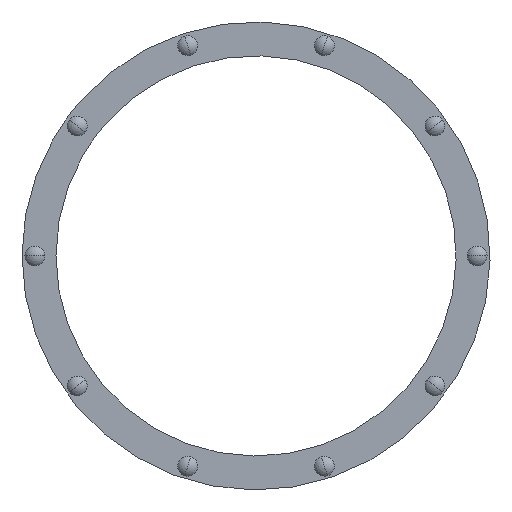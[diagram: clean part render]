
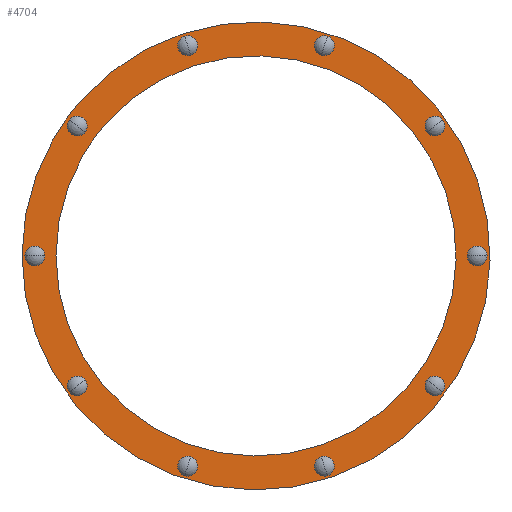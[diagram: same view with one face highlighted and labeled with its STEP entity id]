
A CAD part, front view. The second image highlights one B-rep face of the part: STEP entity #4704.
In plain terms, the highlighted planar face has unit normal (0, -1, 0).
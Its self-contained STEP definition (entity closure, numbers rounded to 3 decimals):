
#1513=CARTESIAN_POINT('',(-229.963,-92.,167.078));
#1514=DIRECTION('',(0.,1.,0.));
#1515=DIRECTION('',(-0.809,0.,0.588));
#1516=AXIS2_PLACEMENT_3D('',#1513,#1514,#1515);
#1518=CARTESIAN_POINT('',(-229.963,-92.,167.078));
#1519=DIRECTION('',(0.,1.,0.));
#1520=DIRECTION('',(0.809,0.,-0.588));
#1521=AXIS2_PLACEMENT_3D('',#1518,#1519,#1520);
#1523=CARTESIAN_POINT('',(-87.838,-92.,270.338));
#1524=DIRECTION('',(0.,1.,0.));
#1525=DIRECTION('',(-0.309,0.,0.951));
#1526=AXIS2_PLACEMENT_3D('',#1523,#1524,#1525);
#1528=CARTESIAN_POINT('',(-87.838,-92.,270.338));
#1529=DIRECTION('',(0.,1.,0.));
#1530=DIRECTION('',(0.309,0.,-0.951));
#1531=AXIS2_PLACEMENT_3D('',#1528,#1529,#1530);
#1533=CARTESIAN_POINT('',(87.838,-92.,270.338));
#1534=DIRECTION('',(0.,1.,0.));
#1535=DIRECTION('',(0.309,0.,0.951));
#1536=AXIS2_PLACEMENT_3D('',#1533,#1534,#1535);
#1538=CARTESIAN_POINT('',(87.838,-92.,270.338));
#1539=DIRECTION('',(0.,1.,0.));
#1540=DIRECTION('',(-0.309,0.,-0.951));
#1541=AXIS2_PLACEMENT_3D('',#1538,#1539,#1540);
#1543=CARTESIAN_POINT('',(229.963,-92.,167.078));
#1544=DIRECTION('',(0.,1.,0.));
#1545=DIRECTION('',(0.809,0.,0.588));
#1546=AXIS2_PLACEMENT_3D('',#1543,#1544,#1545);
#1548=CARTESIAN_POINT('',(229.963,-92.,167.078));
#1549=DIRECTION('',(0.,1.,0.));
#1550=DIRECTION('',(-0.809,0.,-0.588));
#1551=AXIS2_PLACEMENT_3D('',#1548,#1549,#1550);
#1553=CARTESIAN_POINT('',(284.25,-92.,0.));
#1554=DIRECTION('',(0.,1.,0.));
#1555=DIRECTION('',(1.,0.,0.));
#1556=AXIS2_PLACEMENT_3D('',#1553,#1554,#1555);
#1558=CARTESIAN_POINT('',(284.25,-92.,0.));
#1559=DIRECTION('',(0.,1.,0.));
#1560=DIRECTION('',(-1.,0.,0.));
#1561=AXIS2_PLACEMENT_3D('',#1558,#1559,#1560);
#1563=CARTESIAN_POINT('',(229.963,-92.,-167.078));
#1564=DIRECTION('',(0.,1.,0.));
#1565=DIRECTION('',(0.809,0.,-0.588));
#1566=AXIS2_PLACEMENT_3D('',#1563,#1564,#1565);
#1568=CARTESIAN_POINT('',(229.963,-92.,-167.078));
#1569=DIRECTION('',(0.,1.,0.));
#1570=DIRECTION('',(-0.809,0.,0.588));
#1571=AXIS2_PLACEMENT_3D('',#1568,#1569,#1570);
#1573=CARTESIAN_POINT('',(87.838,-92.,-270.338));
#1574=DIRECTION('',(0.,1.,0.));
#1575=DIRECTION('',(0.309,0.,-0.951));
#1576=AXIS2_PLACEMENT_3D('',#1573,#1574,#1575);
#1578=CARTESIAN_POINT('',(87.838,-92.,-270.338));
#1579=DIRECTION('',(0.,1.,0.));
#1580=DIRECTION('',(-0.309,0.,0.951));
#1581=AXIS2_PLACEMENT_3D('',#1578,#1579,#1580);
#1583=CARTESIAN_POINT('',(-87.838,-92.,-270.338));
#1584=DIRECTION('',(0.,1.,0.));
#1585=DIRECTION('',(-0.309,0.,-0.951));
#1586=AXIS2_PLACEMENT_3D('',#1583,#1584,#1585);
#1588=CARTESIAN_POINT('',(-87.838,-92.,-270.338));
#1589=DIRECTION('',(0.,1.,0.));
#1590=DIRECTION('',(0.309,0.,0.951));
#1591=AXIS2_PLACEMENT_3D('',#1588,#1589,#1590);
#1593=CARTESIAN_POINT('',(-229.963,-92.,-167.078));
#1594=DIRECTION('',(0.,1.,0.));
#1595=DIRECTION('',(-0.809,0.,-0.588));
#1596=AXIS2_PLACEMENT_3D('',#1593,#1594,#1595);
#1598=CARTESIAN_POINT('',(-229.963,-92.,-167.078));
#1599=DIRECTION('',(0.,1.,0.));
#1600=DIRECTION('',(0.809,0.,0.588));
#1601=AXIS2_PLACEMENT_3D('',#1598,#1599,#1600);
#1603=CARTESIAN_POINT('',(-284.25,-92.,0.));
#1604=DIRECTION('',(0.,1.,0.));
#1605=DIRECTION('',(-1.,0.,0.));
#1606=AXIS2_PLACEMENT_3D('',#1603,#1604,#1605);
#1608=CARTESIAN_POINT('',(-284.25,-92.,0.));
#1609=DIRECTION('',(0.,1.,0.));
#1610=DIRECTION('',(1.,0.,0.));
#1611=AXIS2_PLACEMENT_3D('',#1608,#1609,#1610);
#1613=CARTESIAN_POINT('',(0.,-92.,0.));
#1614=DIRECTION('',(0.,1.,0.));
#1615=DIRECTION('',(-0.743,0.,0.669));
#1616=AXIS2_PLACEMENT_3D('',#1613,#1614,#1615);
#1618=CARTESIAN_POINT('',(0.,-92.,0.));
#1619=DIRECTION('',(0.,1.,0.));
#1620=DIRECTION('',(-0.866,0.,0.5));
#1621=AXIS2_PLACEMENT_3D('',#1618,#1619,#1620);
#1631=CARTESIAN_POINT('',(0.,-92.,0.));
#1632=DIRECTION('',(0.,1.,0.));
#1633=DIRECTION('',(-0.743,0.,0.669));
#1634=AXIS2_PLACEMENT_3D('',#1631,#1632,#1633);
#1636=CARTESIAN_POINT('',(0.,-92.,0.));
#1637=DIRECTION('',(0.,1.,0.));
#1638=DIRECTION('',(-0.866,0.,0.5));
#1639=AXIS2_PLACEMENT_3D('',#1636,#1637,#1638);
#3380=CARTESIAN_POINT('',(-297.,-92.,0.));
#3381=CARTESIAN_POINT('',(-271.5,-92.,0.));
#3382=VERTEX_POINT('',#3380);
#3383=VERTEX_POINT('',#3381);
#3438=CARTESIAN_POINT('',(-240.278,-92.,-174.572));
#3439=CARTESIAN_POINT('',(-219.648,-92.,-159.584));
#3440=VERTEX_POINT('',#3438);
#3441=VERTEX_POINT('',#3439);
#3496=CARTESIAN_POINT('',(-91.778,-92.,-282.464));
#3497=CARTESIAN_POINT('',(-83.898,-92.,-258.212));
#3498=VERTEX_POINT('',#3496);
#3499=VERTEX_POINT('',#3497);
#3554=CARTESIAN_POINT('',(91.778,-92.,-282.464));
#3555=CARTESIAN_POINT('',(83.898,-92.,-258.212));
#3556=VERTEX_POINT('',#3554);
#3557=VERTEX_POINT('',#3555);
#3612=CARTESIAN_POINT('',(240.278,-92.,-174.572));
#3613=CARTESIAN_POINT('',(219.648,-92.,-159.584));
#3614=VERTEX_POINT('',#3612);
#3615=VERTEX_POINT('',#3613);
#3670=CARTESIAN_POINT('',(297.,-92.,0.));
#3671=CARTESIAN_POINT('',(271.5,-92.,0.));
#3672=VERTEX_POINT('',#3670);
#3673=VERTEX_POINT('',#3671);
#3728=CARTESIAN_POINT('',(240.278,-92.,174.572));
#3729=CARTESIAN_POINT('',(219.648,-92.,159.584));
#3730=VERTEX_POINT('',#3728);
#3731=VERTEX_POINT('',#3729);
#3786=CARTESIAN_POINT('',(91.778,-92.,282.464));
#3787=CARTESIAN_POINT('',(83.898,-92.,258.212));
#3788=VERTEX_POINT('',#3786);
#3789=VERTEX_POINT('',#3787);
#3844=CARTESIAN_POINT('',(-91.778,-92.,282.464));
#3845=CARTESIAN_POINT('',(-83.898,-92.,258.212));
#3846=VERTEX_POINT('',#3844);
#3847=VERTEX_POINT('',#3845);
#3902=CARTESIAN_POINT('',(-240.278,-92.,174.572));
#3903=CARTESIAN_POINT('',(-219.648,-92.,159.584));
#3904=VERTEX_POINT('',#3902);
#3905=VERTEX_POINT('',#3903);
#3918=CARTESIAN_POINT('',(-260.544,-92.,150.425));
#3919=VERTEX_POINT('',#3918);
#3920=CARTESIAN_POINT('',(-222.785,-92.,128.625));
#3922=VERTEX_POINT('',#3920);
#3946=CARTESIAN_POINT('',(-223.575,-92.,201.308));
#3947=VERTEX_POINT('',#3946);
#3948=CARTESIAN_POINT('',(-191.174,-92.,172.134));
#3950=VERTEX_POINT('',#3948);
#4629=CARTESIAN_POINT('',(0.,-92.,0.));
#4630=DIRECTION('',(0.,1.,0.));
#4631=DIRECTION('',(0.866,0.,0.5));
#4632=AXIS2_PLACEMENT_3D('',#4629,#4630,#4631);
#4633=PLANE('',#4632);
#4634=ORIENTED_EDGE('',*,*,#4608,.T.);
#4635=ORIENTED_EDGE('',*,*,#4624,.T.);
#4636=EDGE_LOOP('',(#4634,#4635));
#4637=FACE_OUTER_BOUND('',#4636,.F.);
#4639=ORIENTED_EDGE('',*,*,#4638,.F.);
#4641=ORIENTED_EDGE('',*,*,#4640,.F.);
#4642=EDGE_LOOP('',(#4639,#4641));
#4643=FACE_BOUND('',#4642,.F.);
#4645=ORIENTED_EDGE('',*,*,#4644,.F.);
#4647=ORIENTED_EDGE('',*,*,#4646,.F.);
#4648=EDGE_LOOP('',(#4645,#4647));
#4649=FACE_BOUND('',#4648,.F.);
#4651=ORIENTED_EDGE('',*,*,#4650,.F.);
#4653=ORIENTED_EDGE('',*,*,#4652,.F.);
#4654=EDGE_LOOP('',(#4651,#4653));
#4655=FACE_BOUND('',#4654,.F.);
#4657=ORIENTED_EDGE('',*,*,#4656,.F.);
#4659=ORIENTED_EDGE('',*,*,#4658,.F.);
#4660=EDGE_LOOP('',(#4657,#4659));
#4661=FACE_BOUND('',#4660,.F.);
#4663=ORIENTED_EDGE('',*,*,#4662,.F.);
#4665=ORIENTED_EDGE('',*,*,#4664,.F.);
#4666=EDGE_LOOP('',(#4663,#4665));
#4667=FACE_BOUND('',#4666,.F.);
#4669=ORIENTED_EDGE('',*,*,#4668,.F.);
#4671=ORIENTED_EDGE('',*,*,#4670,.F.);
#4672=EDGE_LOOP('',(#4669,#4671));
#4673=FACE_BOUND('',#4672,.F.);
#4675=ORIENTED_EDGE('',*,*,#4674,.F.);
#4677=ORIENTED_EDGE('',*,*,#4676,.F.);
#4678=EDGE_LOOP('',(#4675,#4677));
#4679=FACE_BOUND('',#4678,.F.);
#4681=ORIENTED_EDGE('',*,*,#4680,.F.);
#4683=ORIENTED_EDGE('',*,*,#4682,.F.);
#4684=EDGE_LOOP('',(#4681,#4683));
#4685=FACE_BOUND('',#4684,.F.);
#4687=ORIENTED_EDGE('',*,*,#4686,.F.);
#4689=ORIENTED_EDGE('',*,*,#4688,.F.);
#4690=EDGE_LOOP('',(#4687,#4689));
#4691=FACE_BOUND('',#4690,.F.);
#4693=ORIENTED_EDGE('',*,*,#4692,.F.);
#4695=ORIENTED_EDGE('',*,*,#4694,.F.);
#4696=EDGE_LOOP('',(#4693,#4695));
#4697=FACE_BOUND('',#4696,.F.);
#4699=ORIENTED_EDGE('',*,*,#4698,.F.);
#4701=ORIENTED_EDGE('',*,*,#4700,.F.);
#4702=EDGE_LOOP('',(#4699,#4701));
#4703=FACE_BOUND('',#4702,.F.);
#4704=ADVANCED_FACE('',(#4637,#4643,#4649,#4655,#4661,#4667,#4673,#4679,#4685,
#4691,#4697,#4703),#4633,.F.);
#1517=CIRCLE('',#1516,12.75);
#1522=CIRCLE('',#1521,12.75);
#1527=CIRCLE('',#1526,12.75);
#1532=CIRCLE('',#1531,12.75);
#1537=CIRCLE('',#1536,12.75);
#1542=CIRCLE('',#1541,12.75);
#1547=CIRCLE('',#1546,12.75);
#1552=CIRCLE('',#1551,12.75);
#1557=CIRCLE('',#1556,12.75);
#1562=CIRCLE('',#1561,12.75);
#1567=CIRCLE('',#1566,12.75);
#1572=CIRCLE('',#1571,12.75);
#1577=CIRCLE('',#1576,12.75);
#1582=CIRCLE('',#1581,12.75);
#1587=CIRCLE('',#1586,12.75);
#1592=CIRCLE('',#1591,12.75);
#1597=CIRCLE('',#1596,12.75);
#1602=CIRCLE('',#1601,12.75);
#1607=CIRCLE('',#1606,12.75);
#1612=CIRCLE('',#1611,12.75);
#1617=CIRCLE('',#1616,300.85);
#1622=CIRCLE('',#1621,300.85);
#1635=CIRCLE('',#1634,257.25);
#1640=CIRCLE('',#1639,257.25);
#4608=EDGE_CURVE('',#3947,#3919,#1617,.T.);
#4624=EDGE_CURVE('',#3919,#3947,#1622,.T.);
#4638=EDGE_CURVE('',#3904,#3905,#1517,.T.);
#4640=EDGE_CURVE('',#3905,#3904,#1522,.T.);
#4644=EDGE_CURVE('',#3846,#3847,#1527,.T.);
#4646=EDGE_CURVE('',#3847,#3846,#1532,.T.);
#4650=EDGE_CURVE('',#3788,#3789,#1537,.T.);
#4652=EDGE_CURVE('',#3789,#3788,#1542,.T.);
#4656=EDGE_CURVE('',#3730,#3731,#1547,.T.);
#4658=EDGE_CURVE('',#3731,#3730,#1552,.T.);
#4662=EDGE_CURVE('',#3672,#3673,#1557,.T.);
#4664=EDGE_CURVE('',#3673,#3672,#1562,.T.);
#4668=EDGE_CURVE('',#3614,#3615,#1567,.T.);
#4670=EDGE_CURVE('',#3615,#3614,#1572,.T.);
#4674=EDGE_CURVE('',#3556,#3557,#1577,.T.);
#4676=EDGE_CURVE('',#3557,#3556,#1582,.T.);
#4680=EDGE_CURVE('',#3498,#3499,#1587,.T.);
#4682=EDGE_CURVE('',#3499,#3498,#1592,.T.);
#4686=EDGE_CURVE('',#3440,#3441,#1597,.T.);
#4688=EDGE_CURVE('',#3441,#3440,#1602,.T.);
#4692=EDGE_CURVE('',#3382,#3383,#1607,.T.);
#4694=EDGE_CURVE('',#3383,#3382,#1612,.T.);
#4698=EDGE_CURVE('',#3950,#3922,#1635,.T.);
#4700=EDGE_CURVE('',#3922,#3950,#1640,.T.);
